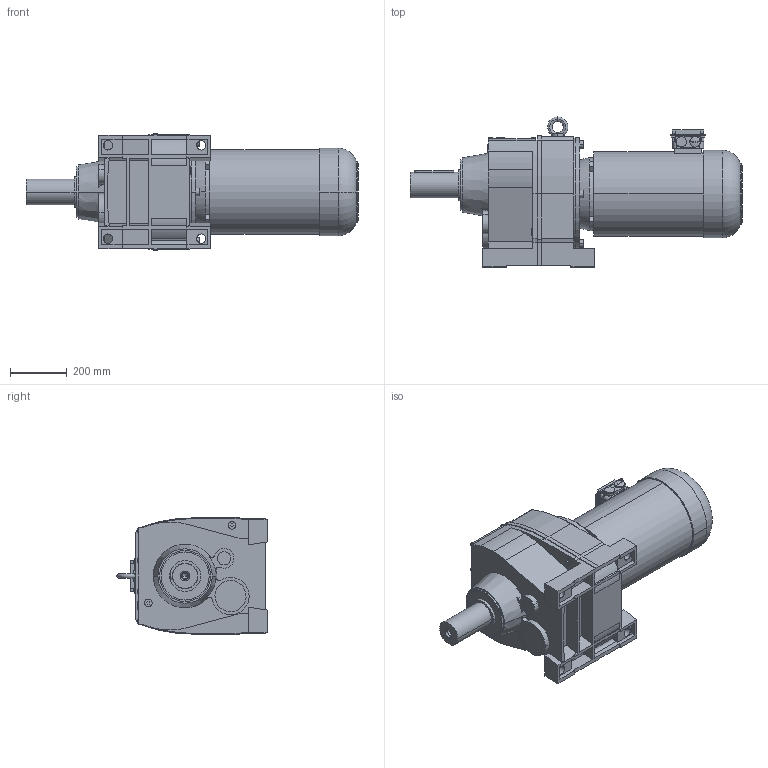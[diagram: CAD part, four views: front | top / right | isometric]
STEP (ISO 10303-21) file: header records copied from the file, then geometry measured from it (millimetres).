
FILE_DESCRIPTION(('STEP AP214'),'1');
FILE_NAME('STEP-File.stp','2018-01-01T00:00:00',(' '),('KEB'),' ','KEB-DRIVE',' ');
FILE_SCHEMA(('AUTOMOTIVE_DESIGN { 1 0 10303 214 1 1 1 1 }'));
Length unit declared in the file: millimetre
Products named in the file (9): g8a; w8_we_90x170; cs8; dm160_kkn; kk10; PLUG_M32; SCREW-PLUG_M32; ndm160; G83A DM160LB4§CAD13
Assembly tree (8 placements, depth 2):
  G83A DM160LB4§CAD13
    g8a
    w8_we_90x170
    cs8
    dm160_kkn
    kk10
    PLUG_M32
    SCREW-PLUG_M32
    ndm160
Bounding box: 1174.49 x 531 x 412 mm (x, y, z)
Volume: 96487787.4 mm3; surface area: 2410783.6 mm2
Topology: 8 solids, 8 shells, 414 faces, 1053 edges, 692 vertices
Faces by surface type: plane 266, cylinder 112, cone 20, torus 16
Entity records: 14704 total; most frequent: CARTESIAN_POINT 4811, ORIENTED_EDGE 2102, DIRECTION 1822, EDGE_CURVE 1051, VERTEX_POINT 692, VECTOR 682, LINE 682, AXIS2_PLACEMENT_3D 570
